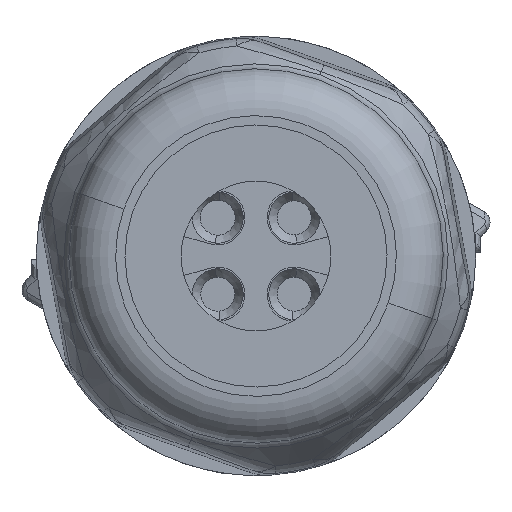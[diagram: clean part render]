
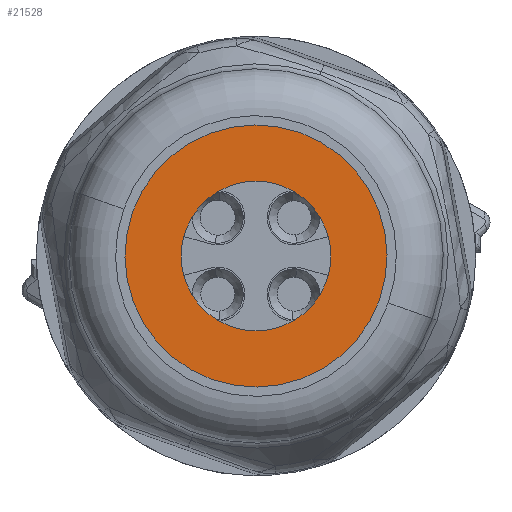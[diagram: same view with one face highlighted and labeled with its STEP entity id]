
A CAD part, front view. The second image highlights one B-rep face of the part: STEP entity #21528.
In plain terms, the highlighted planar face has unit normal (0, -1, 0).
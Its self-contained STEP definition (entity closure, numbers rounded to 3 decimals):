
#174=CARTESIAN_POINT('',(0.,-61.75,0.));
#175=DIRECTION('',(0.,1.,0.));
#176=DIRECTION('',(1.,0.,0.));
#177=AXIS2_PLACEMENT_3D('',#174,#175,#176);
#179=CARTESIAN_POINT('',(0.,-61.75,0.));
#180=DIRECTION('',(0.,-1.,0.));
#181=DIRECTION('',(1.,0.,0.));
#182=AXIS2_PLACEMENT_3D('',#179,#180,#181);
#184=CARTESIAN_POINT('',(0.,-61.75,0.));
#185=DIRECTION('',(0.,-1.,0.));
#186=DIRECTION('',(1.,0.,0.));
#187=AXIS2_PLACEMENT_3D('',#184,#185,#186);
#197=CARTESIAN_POINT('',(0.,-61.75,0.));
#198=DIRECTION('',(0.,1.,0.));
#199=DIRECTION('',(1.,0.,0.));
#200=AXIS2_PLACEMENT_3D('',#197,#198,#199);
#21286=CARTESIAN_POINT('',(4.,-61.75,0.));
#21288=VERTEX_POINT('',#21286);
#21294=CARTESIAN_POINT('',(-4.,-61.75,0.));
#21296=VERTEX_POINT('',#21294);
#21301=CARTESIAN_POINT('',(7.3,-61.75,0.));
#21303=VERTEX_POINT('',#21301);
#21305=CARTESIAN_POINT('',(-7.3,-61.75,0.));
#21307=VERTEX_POINT('',#21305);
#21513=CARTESIAN_POINT('',(0.,-61.75,0.));
#21514=DIRECTION('',(0.,-1.,0.));
#21515=DIRECTION('',(-1.,0.,0.));
#21516=AXIS2_PLACEMENT_3D('',#21513,#21514,#21515);
#21517=PLANE('',#21516);
#21519=ORIENTED_EDGE('',*,*,#21518,.F.);
#21521=ORIENTED_EDGE('',*,*,#21520,.T.);
#21522=EDGE_LOOP('',(#21519,#21521));
#21523=FACE_OUTER_BOUND('',#21522,.F.);
#21524=ORIENTED_EDGE('',*,*,#21499,.F.);
#21525=ORIENTED_EDGE('',*,*,#21481,.T.);
#21526=EDGE_LOOP('',(#21524,#21525));
#21527=FACE_BOUND('',#21526,.F.);
#21528=ADVANCED_FACE('',(#21523,#21527),#21517,.T.);
#178=CIRCLE('',#177,4.);
#183=CIRCLE('',#182,4.);
#188=CIRCLE('',#187,7.3);
#201=CIRCLE('',#200,7.3);
#21481=EDGE_CURVE('',#21288,#21296,#183,.T.);
#21499=EDGE_CURVE('',#21288,#21296,#178,.T.);
#21518=EDGE_CURVE('',#21303,#21307,#188,.T.);
#21520=EDGE_CURVE('',#21303,#21307,#201,.T.);
